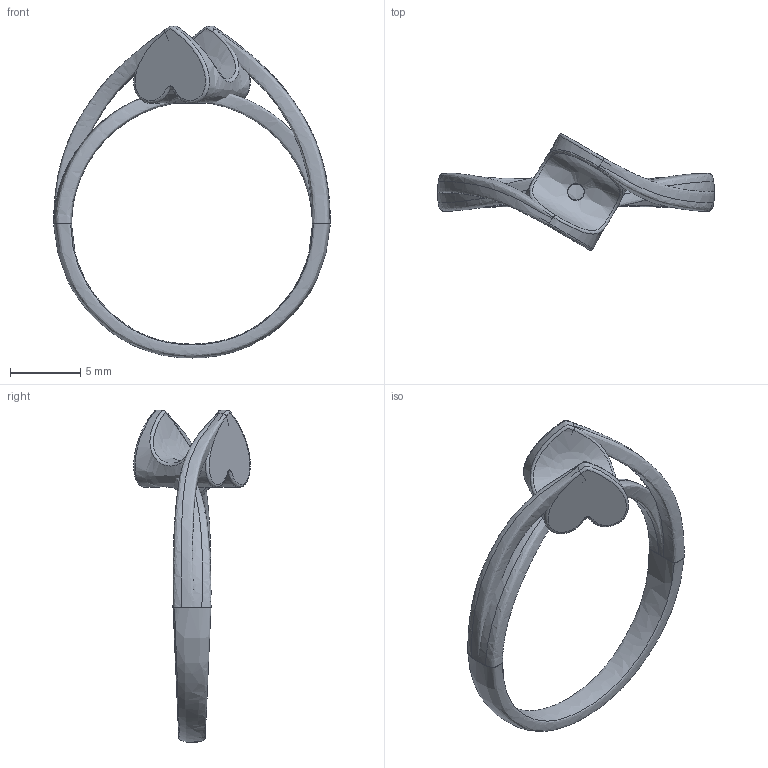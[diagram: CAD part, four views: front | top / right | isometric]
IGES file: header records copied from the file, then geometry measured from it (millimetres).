
Global section: file name: ESIGN 文件库\钻戒（Diamond ring）\钻戒_10-R2001010\R2001010\R2001010.igs; native system: 3Design application; preprocessor: HarmonyWare IGES v1.7.7; organization: Vision numeric; date: 20230614.062227; units: millimetre
Bounding box: 19.77 x 8.32 x 23.71 mm (x, y, z)
Volume: 251.4 mm3; surface area: 629.2 mm2
Topology: 6 solids, 6 shells, 28 faces, 43 edges, 28 vertices
Faces by surface type: bspline 28
